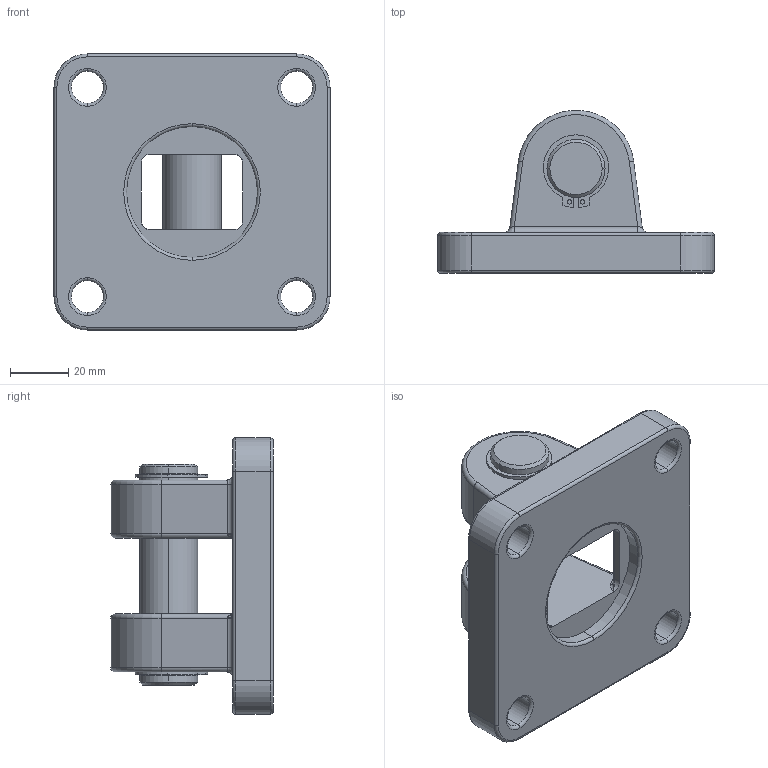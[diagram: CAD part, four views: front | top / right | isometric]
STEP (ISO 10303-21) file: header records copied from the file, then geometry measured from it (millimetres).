
FILE_DESCRIPTION (( 'STEP AP203' ), '1' );
FILE_NAME ('蚾饜极-ISO-CN 80.STEP', '2022-06-23T10:25:27', ( 'Windows' ), ( 'Microsoft' ), 'SwSTEP 2.0', 'SolidWorks 2018', '' );
FILE_SCHEMA (( 'CONFIG_CONTROL_DESIGN' ));
Length unit declared in the file: millimetre
Products named in the file (4): ISO-CN 80-种赽0; C-20; ISO-CN 80-MP; 蚾饜极-ISO-CN 80
Assembly tree (4 placements, depth 2):
  蚾饜极-ISO-CN 80
    ISO-CN 80-种赽0
    C-20  x2
    ISO-CN 80-MP
Bounding box: 95 x 55.93 x 95 mm (x, y, z)
Volume: 185253.5 mm3; surface area: 38638.3 mm2
Topology: 4 solids, 4 shells, 367 faces, 896 edges, 554 vertices
Faces by surface type: cylinder 112, bspline 103, plane 94, torus 46, cone 12
Entity records: 15554 total; most frequent: CARTESIAN_POINT 7525, ORIENTED_EDGE 1680, DIRECTION 1412, EDGE_CURVE 840, AXIS2_PLACEMENT_3D 525, VERTEX_POINT 522, EDGE_LOOP 388, VECTOR 362
